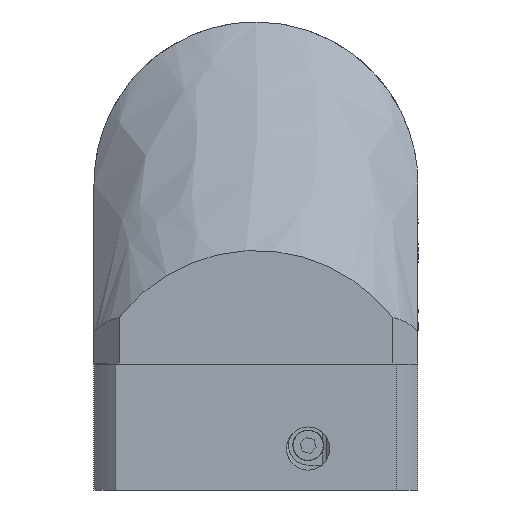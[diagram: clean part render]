
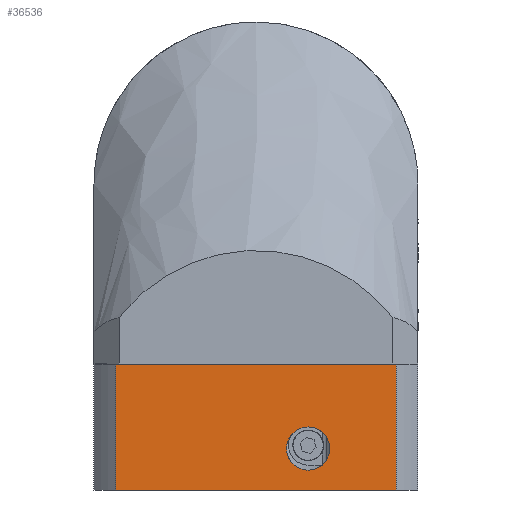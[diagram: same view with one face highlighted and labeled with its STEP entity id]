
A CAD part, front view. The second image highlights one B-rep face of the part: STEP entity #36536.
In plain terms, the highlighted planar face has unit normal (0, -1, 0) as drawn and (0, 0, 1) by its records, which use the part's own axes.
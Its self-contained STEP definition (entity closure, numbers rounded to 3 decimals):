
#185 = DIRECTION ( 'NONE',  ( 1., 0., 0. ) ) ;
#446 = CARTESIAN_POINT ( 'NONE',  ( 5.5, -14.5, 45. ) ) ;
#3164 = AXIS2_PLACEMENT_3D ( 'NONE', #40658, #40537, #40506 ) ;
#4141 = AXIS2_PLACEMENT_3D ( 'NONE', #23766, #27693, #5198 ) ;
#4618 = VECTOR ( 'NONE', #26707, 1000. ) ;
#5097 = FACE_BOUND ( 'NONE', #44700, .T. ) ;
#5198 = DIRECTION ( 'NONE',  ( 1., 0., 0. ) ) ;
#5572 = VERTEX_POINT ( 'NONE', #19405 ) ;
#5586 = ORIENTED_EDGE ( 'NONE', *, *, #8701, .T. ) ;
#6672 = CIRCLE ( 'NONE', #3164, 6. ) ;
#8356 = EDGE_CURVE ( 'NONE', #46298, #15946, #6672, .T. ) ;
#8410 = EDGE_CURVE ( 'NONE', #5572, #34522, #24345, .T. ) ;
#8514 = ORIENTED_EDGE ( 'NONE', *, *, #8356, .T. ) ;
#8701 = EDGE_CURVE ( 'NONE', #34522, #13864, #34861, .T. ) ;
#9744 = EDGE_CURVE ( 'NONE', #5572, #22788, #31857, .T. ) ;
#12141 = ORIENTED_EDGE ( 'NONE', *, *, #9744, .F. ) ;
#13147 = VECTOR ( 'NONE', #38284, 1000. ) ;
#13864 = VERTEX_POINT ( 'NONE', #28354 ) ;
#13924 = FACE_OUTER_BOUND ( 'NONE', #42538, .T. ) ;
#13974 = CARTESIAN_POINT ( 'NONE',  ( 0., 38.926, 45. ) ) ;
#14242 = VECTOR ( 'NONE', #24165, 1000. ) ;
#14910 = VECTOR ( 'NONE', #25816, 1000. ) ;
#15542 = CARTESIAN_POINT ( 'NONE',  ( 35., 59.5, 45. ) ) ;
#15946 = VERTEX_POINT ( 'NONE', #446 ) ;
#16557 = ORIENTED_EDGE ( 'NONE', *, *, #22132, .T. ) ;
#18773 = ORIENTED_EDGE ( 'NONE', *, *, #38177, .T. ) ;
#18794 = CARTESIAN_POINT ( 'NONE',  ( 0., -38.926, 45. ) ) ;
#19405 = CARTESIAN_POINT ( 'NONE',  ( 0., 38.926, 45. ) ) ;
#22132 = EDGE_CURVE ( 'NONE', #13864, #22788, #33381, .T. ) ;
#22600 = DIRECTION ( 'NONE',  ( 0., 0., -1. ) ) ;
#22788 = VERTEX_POINT ( 'NONE', #25482 ) ;
#23766 = CARTESIAN_POINT ( 'NONE',  ( 59., -45., 45. ) ) ;
#23936 = PLANE ( 'NONE',  #4141 ) ;
#24165 = DIRECTION ( 'NONE',  ( 1., 0., 0. ) ) ;
#24345 = LINE ( 'NONE', #40023, #13147 ) ;
#25482 = CARTESIAN_POINT ( 'NONE',  ( 35., 38.926, 45. ) ) ;
#25816 = DIRECTION ( 'NONE',  ( 1., 0., 0. ) ) ;
#26707 = DIRECTION ( 'NONE',  ( 0., 1., 0. ) ) ;
#27693 = DIRECTION ( 'NONE',  ( 0., 0., 1. ) ) ;
#27973 = CARTESIAN_POINT ( 'NONE',  ( 59., -38.926, 45. ) ) ;
#28147 = CIRCLE ( 'NONE', #46252, 6. ) ;
#28354 = CARTESIAN_POINT ( 'NONE',  ( 35., -38.926, 45. ) ) ;
#31857 = LINE ( 'NONE', #13974, #14242 ) ;
#32319 = ORIENTED_EDGE ( 'NONE', *, *, #8410, .T. ) ;
#33381 = LINE ( 'NONE', #15542, #4618 ) ;
#34522 = VERTEX_POINT ( 'NONE', #18794 ) ;
#34861 = LINE ( 'NONE', #27973, #14910 ) ;
#36536 = ADVANCED_FACE ( 'NONE', ( #13924, #5097 ), #23936, .T. ) ;
#38177 = EDGE_CURVE ( 'NONE', #15946, #46298, #28147, .T. ) ;
#38284 = DIRECTION ( 'NONE',  ( 0., -1., 0. ) ) ;
#40023 = CARTESIAN_POINT ( 'NONE',  ( 0., -45., 45. ) ) ;
#40506 = DIRECTION ( 'NONE',  ( 1., 0., 0. ) ) ;
#40537 = DIRECTION ( 'NONE',  ( 0., 0., -1. ) ) ;
#40658 = CARTESIAN_POINT ( 'NONE',  ( 11.5, -14.5, 45. ) ) ;
#42538 = EDGE_LOOP ( 'NONE', ( #5586, #16557, #12141, #32319 ) ) ;
#44700 = EDGE_LOOP ( 'NONE', ( #8514, #18773 ) ) ;
#44992 = CARTESIAN_POINT ( 'NONE',  ( 11.5, -14.5, 45. ) ) ;
#46252 = AXIS2_PLACEMENT_3D ( 'NONE', #44992, #22600, #185 ) ;
#46298 = VERTEX_POINT ( 'NONE', #46445 ) ;
#46445 = CARTESIAN_POINT ( 'NONE',  ( 17.5, -14.5, 45. ) ) ;
